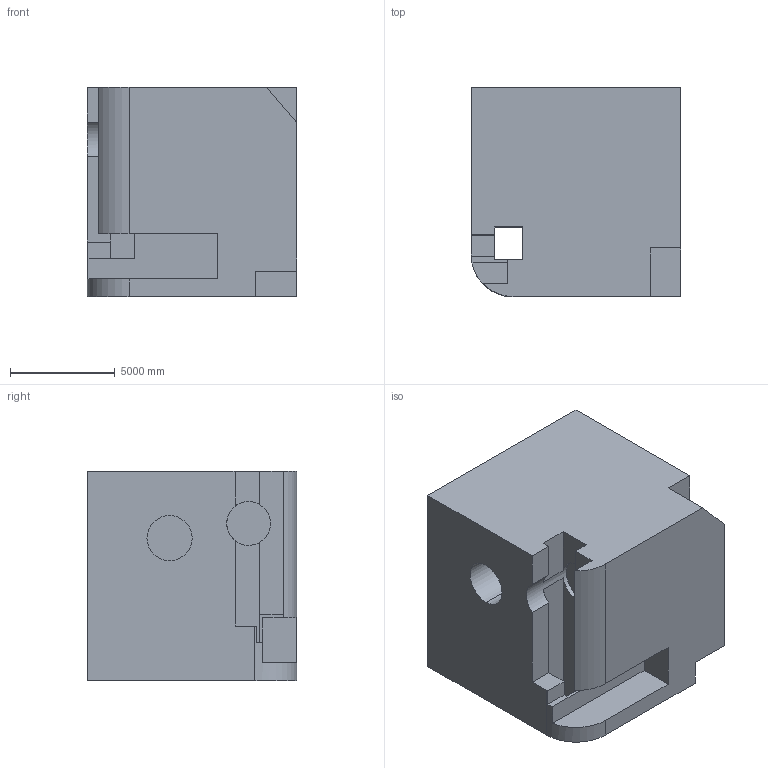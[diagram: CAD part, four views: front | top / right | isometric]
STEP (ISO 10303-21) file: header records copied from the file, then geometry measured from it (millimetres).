
FILE_DESCRIPTION (( 'STEP AP203' ), '1' );
FILE_NAME ('1833.STEP', '2022-08-19T13:20:35', ( 'user' ), ( '' ), 'SwSTEP 2.0', 'SolidWorks 2021', '' );
FILE_SCHEMA (( 'CONFIG_CONTROL_DESIGN' ));
Length unit declared in the file: centimetre
Products named in the file (1): 1833
Bounding box: 10000 x 10000 x 10000 mm (x, y, z)
Volume: 897033534078 mm3; surface area: 680801614.6 mm2
Topology: 1 solids, 1 shells, 40 faces, 114 edges, 76 vertices
Faces by surface type: plane 34, cylinder 6
Entity records: 1379 total; most frequent: CARTESIAN_POINT 231, ORIENTED_EDGE 228, DIRECTION 216, EDGE_CURVE 114, LINE 94, VECTOR 94, VERTEX_POINT 76, AXIS2_PLACEMENT_3D 61
